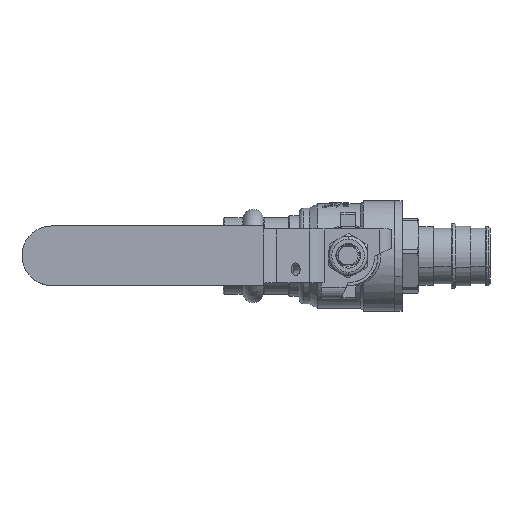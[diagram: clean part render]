
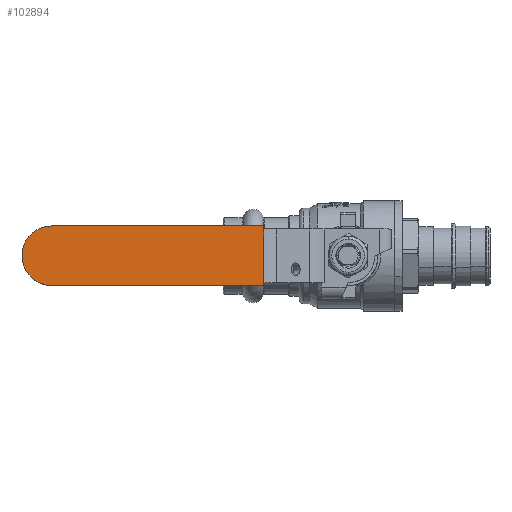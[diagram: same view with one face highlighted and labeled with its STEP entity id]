
A CAD part, top view. The second image highlights one B-rep face of the part: STEP entity #102894.
In plain terms, the highlighted planar face has unit normal (0, 0, 1).
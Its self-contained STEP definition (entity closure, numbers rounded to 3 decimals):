
#100331 = PLANE('',#100332);
#100332 = AXIS2_PLACEMENT_3D('',#100333,#100334,#100335);
#100333 = CARTESIAN_POINT('',(-28.314,-2.277,
    59.307));
#100334 = DIRECTION('',(-1.,0.,0.));
#100335 = DIRECTION('',(-0.,-1.,0.));
#102664 = VERTEX_POINT('',#102665);
#102665 = CARTESIAN_POINT('',(-28.314,-22.277,
    59.307));
#102681 = PLANE('',#102682);
#102682 = AXIS2_PLACEMENT_3D('',#102683,#102684,#102685);
#102683 = CARTESIAN_POINT('',(0.,-22.277,40.307));
#102684 = DIRECTION('',(0.,1.,0.));
#102685 = DIRECTION('',(-1.,0.,0.));
#102722 = VERTEX_POINT('',#102723);
#102723 = CARTESIAN_POINT('',(-28.314,-2.277,
    59.307));
#102737 = PLANE('',#102738);
#102738 = AXIS2_PLACEMENT_3D('',#102739,#102740,#102741);
#102739 = CARTESIAN_POINT('',(0.,-2.277,40.307));
#102740 = DIRECTION('',(0.,1.,0.));
#102741 = DIRECTION('',(-1.,0.,0.));
#102749 = EDGE_CURVE('',#102722,#102664,#102750,.T.);
#102750 = SURFACE_CURVE('',#102751,(#102755,#102762),.PCURVE_S1.);
#102751 = LINE('',#102752,#102753);
#102752 = CARTESIAN_POINT('',(-28.314,-2.277,
    59.307));
#102753 = VECTOR('',#102754,1.);
#102754 = DIRECTION('',(0.,-1.,0.));
#102755 = PCURVE('',#100331,#102756);
#102756 = DEFINITIONAL_REPRESENTATION('',(#102757),#102761);
#102757 = LINE('',#102758,#102759);
#102758 = CARTESIAN_POINT('',(-0.,0.));
#102759 = VECTOR('',#102760,1.);
#102760 = DIRECTION('',(1.,0.));
#102761 = ( GEOMETRIC_REPRESENTATION_CONTEXT(2) 
PARAMETRIC_REPRESENTATION_CONTEXT() REPRESENTATION_CONTEXT('2D SPACE',''
  ) );
#102762 = PCURVE('',#102763,#102768);
#102763 = PLANE('',#102764);
#102764 = AXIS2_PLACEMENT_3D('',#102765,#102766,#102767);
#102765 = CARTESIAN_POINT('',(-28.314,-2.277,
    59.307));
#102766 = DIRECTION('',(0.,0.,-1.));
#102767 = DIRECTION('',(0.,-1.,0.));
#102768 = DEFINITIONAL_REPRESENTATION('',(#102769),#102773);
#102769 = LINE('',#102770,#102771);
#102770 = CARTESIAN_POINT('',(0.,0.));
#102771 = VECTOR('',#102772,1.);
#102772 = DIRECTION('',(1.,0.));
#102773 = ( GEOMETRIC_REPRESENTATION_CONTEXT(2) 
PARAMETRIC_REPRESENTATION_CONTEXT() REPRESENTATION_CONTEXT('2D SPACE',''
  ) );
#102828 = CYLINDRICAL_SURFACE('',#102829,10.);
#102829 = AXIS2_PLACEMENT_3D('',#102830,#102831,#102832);
#102830 = CARTESIAN_POINT('',(-99.5,-12.277,59.307));
#102831 = DIRECTION('',(0.,0.,1.));
#102832 = DIRECTION('',(0.,1.,0.));
#102861 = CYLINDRICAL_SURFACE('',#102862,10.);
#102862 = AXIS2_PLACEMENT_3D('',#102863,#102864,#102865);
#102863 = CARTESIAN_POINT('',(-99.5,-12.277,40.307));
#102864 = DIRECTION('',(0.,0.,-1.));
#102865 = DIRECTION('',(0.,-1.,0.));
#102894 = ADVANCED_FACE('',(#102895),#102763,.F.);
#102895 = FACE_BOUND('',#102896,.T.);
#102896 = EDGE_LOOP('',(#102897,#102927,#102955,#102976,#102977));
#102897 = ORIENTED_EDGE('',*,*,#102898,.T.);
#102898 = EDGE_CURVE('',#102899,#102901,#102903,.T.);
#102899 = VERTEX_POINT('',#102900);
#102900 = CARTESIAN_POINT('',(-99.5,-2.277,59.307));
#102901 = VERTEX_POINT('',#102902);
#102902 = CARTESIAN_POINT('',(-109.5,-12.277,59.307));
#102903 = SURFACE_CURVE('',#102904,(#102909,#102920),.PCURVE_S1.);
#102904 = CIRCLE('',#102905,10.);
#102905 = AXIS2_PLACEMENT_3D('',#102906,#102907,#102908);
#102906 = CARTESIAN_POINT('',(-99.5,-12.277,59.307));
#102907 = DIRECTION('',(0.,0.,1.));
#102908 = DIRECTION('',(0.,-1.,0.));
#102909 = PCURVE('',#102763,#102910);
#102910 = DEFINITIONAL_REPRESENTATION('',(#102911),#102919);
#102911 = ( BOUNDED_CURVE() B_SPLINE_CURVE(2,(#102912,#102913,#102914,
    #102915,#102916,#102917,#102918),.UNSPECIFIED.,.T.,.F.) 
B_SPLINE_CURVE_WITH_KNOTS((1,2,2,2,2,1),(-2.094,0.,
    2.094,4.189,6.283,8.378),
.UNSPECIFIED.) CURVE() GEOMETRIC_REPRESENTATION_ITEM() 
RATIONAL_B_SPLINE_CURVE((1.,0.5,1.,0.5,1.,0.5,1.)) REPRESENTATION_ITEM(
  '') );
#102912 = CARTESIAN_POINT('',(20.,71.186));
#102913 = CARTESIAN_POINT('',(20.,53.866));
#102914 = CARTESIAN_POINT('',(5.,62.526));
#102915 = CARTESIAN_POINT('',(-10.,71.186));
#102916 = CARTESIAN_POINT('',(5.,79.847));
#102917 = CARTESIAN_POINT('',(20.,88.507));
#102918 = CARTESIAN_POINT('',(20.,71.186));
#102919 = ( GEOMETRIC_REPRESENTATION_CONTEXT(2) 
PARAMETRIC_REPRESENTATION_CONTEXT() REPRESENTATION_CONTEXT('2D SPACE',''
  ) );
#102920 = PCURVE('',#102861,#102921);
#102921 = DEFINITIONAL_REPRESENTATION('',(#102922),#102926);
#102922 = LINE('',#102923,#102924);
#102923 = CARTESIAN_POINT('',(6.283,-19.));
#102924 = VECTOR('',#102925,1.);
#102925 = DIRECTION('',(-1.,0.));
#102926 = ( GEOMETRIC_REPRESENTATION_CONTEXT(2) 
PARAMETRIC_REPRESENTATION_CONTEXT() REPRESENTATION_CONTEXT('2D SPACE',''
  ) );
#102927 = ORIENTED_EDGE('',*,*,#102928,.T.);
#102928 = EDGE_CURVE('',#102901,#102929,#102931,.T.);
#102929 = VERTEX_POINT('',#102930);
#102930 = CARTESIAN_POINT('',(-99.5,-22.277,59.307));
#102931 = SURFACE_CURVE('',#102932,(#102937,#102948),.PCURVE_S1.);
#102932 = CIRCLE('',#102933,10.);
#102933 = AXIS2_PLACEMENT_3D('',#102934,#102935,#102936);
#102934 = CARTESIAN_POINT('',(-99.5,-12.277,59.307));
#102935 = DIRECTION('',(0.,0.,1.));
#102936 = DIRECTION('',(0.,-1.,0.));
#102937 = PCURVE('',#102763,#102938);
#102938 = DEFINITIONAL_REPRESENTATION('',(#102939),#102947);
#102939 = ( BOUNDED_CURVE() B_SPLINE_CURVE(2,(#102940,#102941,#102942,
    #102943,#102944,#102945,#102946),.UNSPECIFIED.,.T.,.F.) 
B_SPLINE_CURVE_WITH_KNOTS((1,2,2,2,2,1),(-2.094,0.,
    2.094,4.189,6.283,8.378),
.UNSPECIFIED.) CURVE() GEOMETRIC_REPRESENTATION_ITEM() 
RATIONAL_B_SPLINE_CURVE((1.,0.5,1.,0.5,1.,0.5,1.)) REPRESENTATION_ITEM(
  '') );
#102940 = CARTESIAN_POINT('',(20.,71.186));
#102941 = CARTESIAN_POINT('',(20.,53.866));
#102942 = CARTESIAN_POINT('',(5.,62.526));
#102943 = CARTESIAN_POINT('',(-10.,71.186));
#102944 = CARTESIAN_POINT('',(5.,79.847));
#102945 = CARTESIAN_POINT('',(20.,88.507));
#102946 = CARTESIAN_POINT('',(20.,71.186));
#102947 = ( GEOMETRIC_REPRESENTATION_CONTEXT(2) 
PARAMETRIC_REPRESENTATION_CONTEXT() REPRESENTATION_CONTEXT('2D SPACE',''
  ) );
#102948 = PCURVE('',#102828,#102949);
#102949 = DEFINITIONAL_REPRESENTATION('',(#102950),#102954);
#102950 = LINE('',#102951,#102952);
#102951 = CARTESIAN_POINT('',(-3.142,0.));
#102952 = VECTOR('',#102953,1.);
#102953 = DIRECTION('',(1.,0.));
#102954 = ( GEOMETRIC_REPRESENTATION_CONTEXT(2) 
PARAMETRIC_REPRESENTATION_CONTEXT() REPRESENTATION_CONTEXT('2D SPACE',''
  ) );
#102955 = ORIENTED_EDGE('',*,*,#102956,.T.);
#102956 = EDGE_CURVE('',#102929,#102664,#102957,.T.);
#102957 = SURFACE_CURVE('',#102958,(#102962,#102969),.PCURVE_S1.);
#102958 = LINE('',#102959,#102960);
#102959 = CARTESIAN_POINT('',(-28.314,-22.277,
    59.307));
#102960 = VECTOR('',#102961,1.);
#102961 = DIRECTION('',(1.,0.,0.));
#102962 = PCURVE('',#102763,#102963);
#102963 = DEFINITIONAL_REPRESENTATION('',(#102964),#102968);
#102964 = LINE('',#102965,#102966);
#102965 = CARTESIAN_POINT('',(20.,0.));
#102966 = VECTOR('',#102967,1.);
#102967 = DIRECTION('',(0.,-1.));
#102968 = ( GEOMETRIC_REPRESENTATION_CONTEXT(2) 
PARAMETRIC_REPRESENTATION_CONTEXT() REPRESENTATION_CONTEXT('2D SPACE',''
  ) );
#102969 = PCURVE('',#102681,#102970);
#102970 = DEFINITIONAL_REPRESENTATION('',(#102971),#102975);
#102971 = LINE('',#102972,#102973);
#102972 = CARTESIAN_POINT('',(28.314,19.));
#102973 = VECTOR('',#102974,1.);
#102974 = DIRECTION('',(-1.,0.));
#102975 = ( GEOMETRIC_REPRESENTATION_CONTEXT(2) 
PARAMETRIC_REPRESENTATION_CONTEXT() REPRESENTATION_CONTEXT('2D SPACE',''
  ) );
#102976 = ORIENTED_EDGE('',*,*,#102749,.F.);
#102977 = ORIENTED_EDGE('',*,*,#102978,.F.);
#102978 = EDGE_CURVE('',#102899,#102722,#102979,.T.);
#102979 = SURFACE_CURVE('',#102980,(#102984,#102991),.PCURVE_S1.);
#102980 = LINE('',#102981,#102982);
#102981 = CARTESIAN_POINT('',(-28.314,-2.277,
    59.307));
#102982 = VECTOR('',#102983,1.);
#102983 = DIRECTION('',(1.,0.,0.));
#102984 = PCURVE('',#102763,#102985);
#102985 = DEFINITIONAL_REPRESENTATION('',(#102986),#102990);
#102986 = LINE('',#102987,#102988);
#102987 = CARTESIAN_POINT('',(0.,0.));
#102988 = VECTOR('',#102989,1.);
#102989 = DIRECTION('',(0.,-1.));
#102990 = ( GEOMETRIC_REPRESENTATION_CONTEXT(2) 
PARAMETRIC_REPRESENTATION_CONTEXT() REPRESENTATION_CONTEXT('2D SPACE',''
  ) );
#102991 = PCURVE('',#102737,#102992);
#102992 = DEFINITIONAL_REPRESENTATION('',(#102993),#102997);
#102993 = LINE('',#102994,#102995);
#102994 = CARTESIAN_POINT('',(28.314,19.));
#102995 = VECTOR('',#102996,1.);
#102996 = DIRECTION('',(-1.,0.));
#102997 = ( GEOMETRIC_REPRESENTATION_CONTEXT(2) 
PARAMETRIC_REPRESENTATION_CONTEXT() REPRESENTATION_CONTEXT('2D SPACE',''
  ) );
